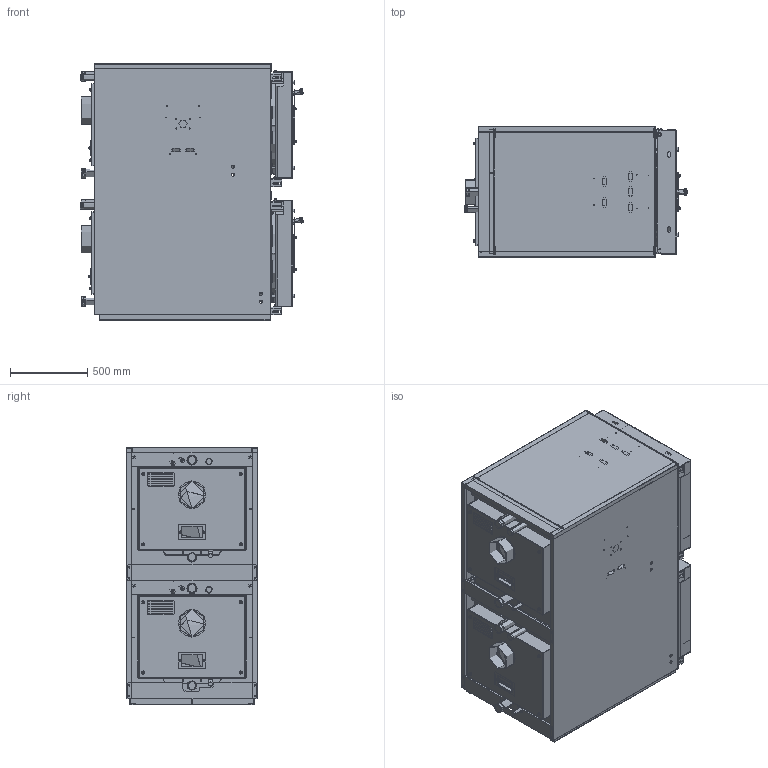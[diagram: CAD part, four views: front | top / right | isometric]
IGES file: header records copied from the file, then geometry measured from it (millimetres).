
Start section: START RECORD GO HERE.
Global section: file name: 20067749_aperta.igs; native system: DASSAULT SYSTEMES CATIA V5 R20 - www.3ds.com; preprocessor: CATIA Version 5 Release 20 SP 6 ; author: Riello S.p.A.; organization: ASE; date: 20130925.172659; units: millimetre
Bounding box: 1442.72 x 844.6 x 1665.1 mm (x, y, z)
Surface area: 44292028.2 mm2 (no closed solid volume)
Topology: 0 solids, 0 shells, 11267 faces, 55617 edges, 55513 vertices
Faces by surface type: plane 6220, revolution 4555, bspline 428, extrusion 64
